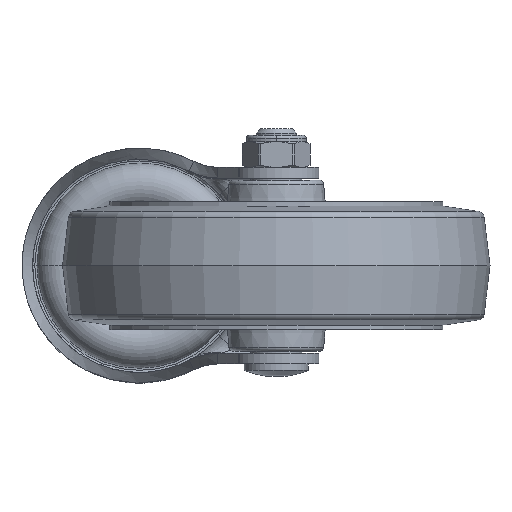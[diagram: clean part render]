
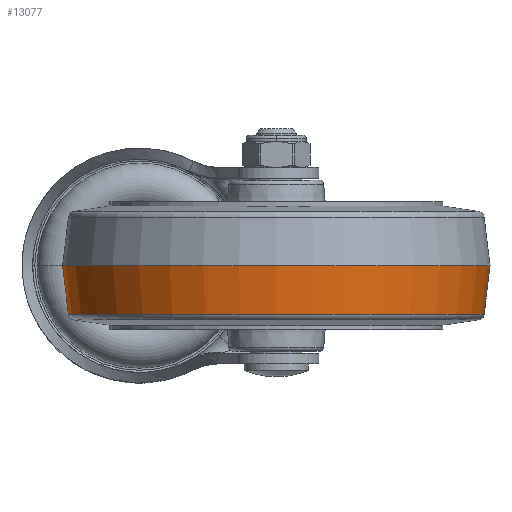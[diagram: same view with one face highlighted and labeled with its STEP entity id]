
A CAD part, front view. The second image highlights one B-rep face of the part: STEP entity #13077.
In plain terms, the highlighted conical face has half-angle 6.843 degrees and reference radius 49.318 mm.
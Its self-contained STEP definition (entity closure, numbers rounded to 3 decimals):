
#12832=DIRECTION('',(-0.993,0.119,0.));
#12833=VECTOR('',#12832,11.446);
#12834=CARTESIAN_POINT('',(11.365,48.636,0.));
#12835=LINE('',#12834,#12833);
#12836=DIRECTION('',(-0.993,-0.119,0.));
#12837=VECTOR('',#12836,11.446);
#12838=CARTESIAN_POINT('',(11.365,-48.636,0.));
#12839=LINE('',#12838,#12837);
#12840=CARTESIAN_POINT('',(11.365,0.,0.));
#12841=DIRECTION('',(-1.,0.,0.));
#12842=DIRECTION('',(0.,1.,0.));
#12843=AXIS2_PLACEMENT_3D('',#12840,#12841,#12842);
#13013=CARTESIAN_POINT('',(0.,0.,0.));
#13014=DIRECTION('',(-1.,0.,0.));
#13015=DIRECTION('',(0.,1.,0.));
#13016=AXIS2_PLACEMENT_3D('',#13013,#13014,#13015);
#13018=CARTESIAN_POINT('',(0.,50.,0.));
#13020=VERTEX_POINT('',#13018);
#13038=CARTESIAN_POINT('',(11.365,48.636,0.));
#13039=VERTEX_POINT('',#13038);
#13040=CARTESIAN_POINT('',(0.,-50.,0.));
#13042=VERTEX_POINT('',#13040);
#13060=CARTESIAN_POINT('',(11.365,-48.636,
0.));
#13061=VERTEX_POINT('',#13060);
#13062=CARTESIAN_POINT('',(5.682,0.,0.));
#13063=DIRECTION('',(-1.,0.,0.));
#13064=DIRECTION('',(0.,1.,0.));
#13065=AXIS2_PLACEMENT_3D('',#13062,#13063,#13064);
#13066=CONICAL_SURFACE('',#13065,49.318,6.843);
#13068=ORIENTED_EDGE('',*,*,#13067,.T.);
#13070=ORIENTED_EDGE('',*,*,#13069,.T.);
#13072=ORIENTED_EDGE('',*,*,#13071,.F.);
#13074=ORIENTED_EDGE('',*,*,#13073,.F.);
#13075=EDGE_LOOP('',(#13068,#13070,#13072,#13074));
#13076=FACE_OUTER_BOUND('',#13075,.F.);
#12844=CIRCLE('',#12843,48.636);
#13017=CIRCLE('',#13016,50.);
#13067=EDGE_CURVE('',#13039,#13020,#12835,.T.);
#13069=EDGE_CURVE('',#13020,#13042,#13017,.T.);
#13071=EDGE_CURVE('',#13061,#13042,#12839,.T.);
#13073=EDGE_CURVE('',#13039,#13061,#12844,.T.);
#13077=ADVANCED_FACE('',(#13076),#13066,.T.);
